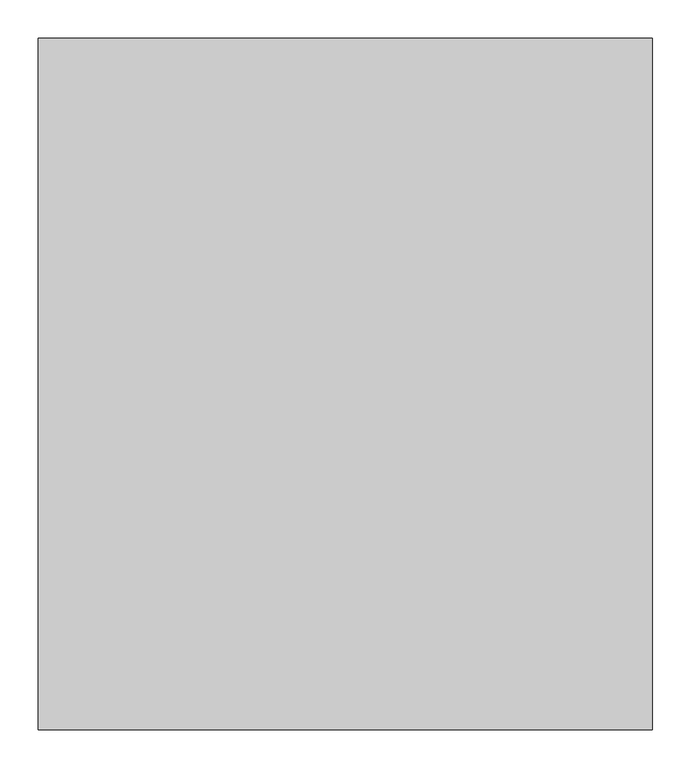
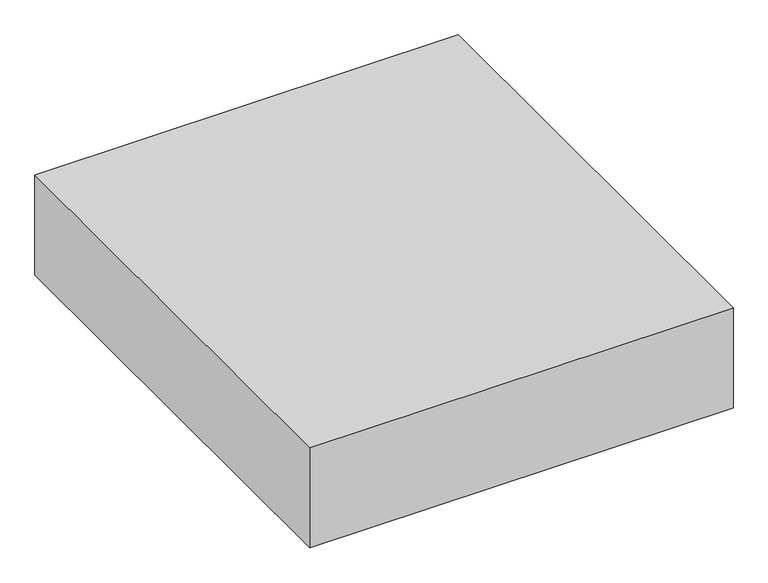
"""IFC4 building model written with IfcOpenShell, lengths in millimetres: duct fitting geometry, 2017_Reducción_Climaver_Reducción-Rectangular-a-una-cara-horizontal-en-U : Reducción en U a cara horizontal."""

from ifc_helpers import new_model, si_unit, frame, origin, place, context, project, spatial, polyline, outline, extrude, source, transform, mapped, element, save


def duct_fitting_162af77c(model_context):
    return source(origin(), model_context, "Body", "SweptSolid", [
        extrude(outline(polyline([(-400.0, -450.0), (-400.0, 450.0), (400.0, 450.0), (400.0, -450.0), (-400.0, -450.0)])), frame((0.0, 0.0, -100.0), z_axis=(0.0, 0.0, 1.0), x_axis=(1.0, 0.0, 0.0)), (0.0, 0.0, 1.0), 200.0),
    ])


if __name__ == "__main__":
    model = new_model("IFC4")
    model_context = context("Model", 3, world=origin())
    ifc_project = project(units=[si_unit("LENGTHUNIT", "METRE", prefix="MILLI")], contexts=[model_context])
    site = spatial("IfcSite", under=ifc_project)
    building = spatial("IfcBuilding", under=site)
    placement = place(None, origin())
    duct_fitting_shape = duct_fitting_162af77c(model_context)
    element("IfcDuctFitting", 1, ObjectType="2017_Reducción_Climaver_Reducción-Rectangular-a-una-cara-horizontal-en-U : Reducción en U a cara horizontal", at=placement, inside=building, context=model_context, shape_type="MappedRepresentation", body=[
        mapped(duct_fitting_shape, transform((0.0, 0.0, 0.0), x_axis=(1.0, 0.0, 0.0), y_axis=(0.0, 1.0, 0.0), z_axis=(0.0, 0.0, 1.0))),
    ])
    save(model, "model.ifc")
